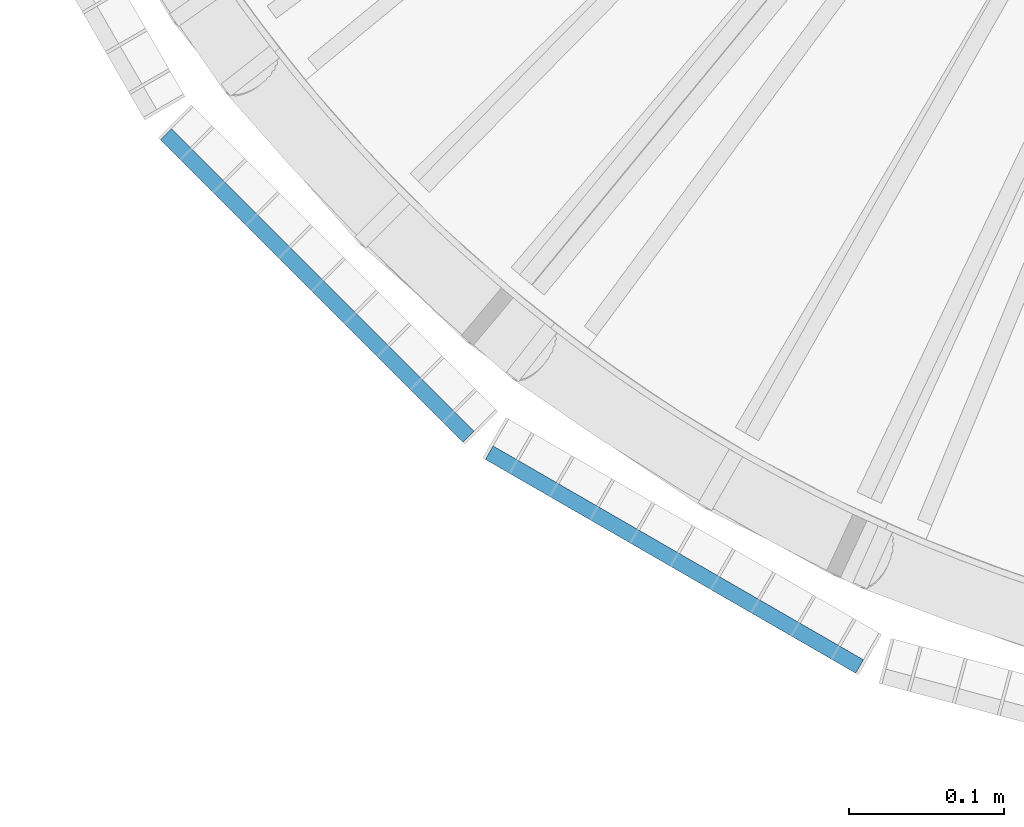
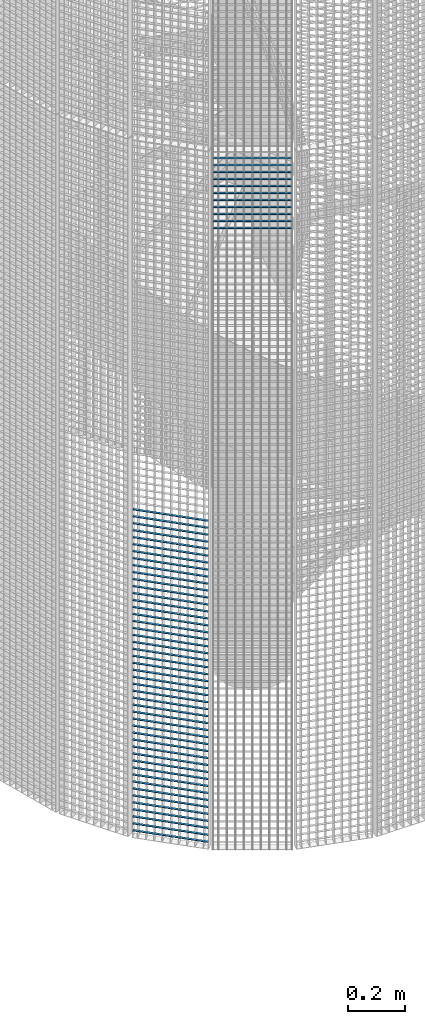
# One storey, part 383 of 1183: 58 beams, 2 elements without a shape of their own.
"""IFC2X3 building model written with IfcOpenShell, lengths in millimetres."""

from ifc_helpers import new_model, si_unit, frame, origin_with_axes, origin_2d_with_axis, place, context, subcontext, project, spatial, rectangle, extrude, material, type_object, element, aggregate, save


model = new_model("IFC2X3")

# Units and contexts
model_context = context("Model", 3, precision=1e-05, world=origin_with_axes())
body_context = subcontext(model_context, "Body", "Model", "MODEL_VIEW")
ifc_project = project(units=[si_unit("LENGTHUNIT", "METRE", prefix="MILLI"), si_unit("AREAUNIT", "SQUARE_METRE"), si_unit("VOLUMEUNIT", "CUBIC_METRE"), si_unit("MASSUNIT", "GRAM", prefix="KILO"), si_unit("TIMEUNIT", "SECOND"), si_unit("PLANEANGLEUNIT", "RADIAN"), si_unit("SOLIDANGLEUNIT", "STERADIAN"), si_unit("THERMODYNAMICTEMPERATUREUNIT", "DEGREE_CELSIUS"), si_unit("LUMINOUSINTENSITYUNIT", "LUMEN")], contexts=[model_context])

# Site, building, storey
site_placement = place(None, origin_with_axes())
site = spatial("IfcSite", under=ifc_project, at=site_placement, Name="Undefined", CompositionType="ELEMENT")
building_placement = place(site_placement, origin_with_axes())
building = spatial("IfcBuilding", under=site, at=building_placement, Name="Undefined", CompositionType="ELEMENT")
storey_placement = place(building_placement, origin_with_axes())
storey = spatial("IfcBuildingStorey", under=building, at=storey_placement, Name="Undefined", CompositionType="ELEMENT", Elevation=0.0)

# Assembly, beams
assembly_1_placement = place(storey_placement, origin_with_axes())
assembly_1 = element("IfcElementAssembly", 1, at=assembly_1_placement, inside=storey, Name="BORDURE", AssemblyPlace="NOTDEFINED", PredefinedType="NOTDEFINED")
ifc_material = material(Name="STEEL/S235JR")
beam_type = type_object("IfcBeamType", Name="PL2*10", PredefinedType="NOTDEFINED")
beam_1_placement = place(assembly_1_placement, frame((20910.2286510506, -884.927168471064, 1410.0), z_axis=(-0.70710678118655, -0.707106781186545, 0.0), x_axis=(-0.707106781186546, 0.707106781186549, 0.0)))
beam_1 = element("IfcBeam", 2, at=beam_1_placement, type_object=beam_type, material=ifc_material, Name="ENTRETOISE", context=body_context, shape_type="SweptSolid", body=[
    extrude(rectangle(XDim=2.0, YDim=10.0, at=origin_2d_with_axis()), frame((275.999999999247, 9.09494701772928e-13, 1.53210777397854e-14), z_axis=(-1.0, 0.0, 0.0), x_axis=(0.0, -1.0, 0.0)), (0.0, 0.0, 1.0), 276.0),
])
beam_2_placement = place(assembly_1_placement, frame((20910.2286510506, -884.927168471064, 1380.0), z_axis=(-0.70710678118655, -0.707106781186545, 0.0), x_axis=(-0.707106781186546, 0.707106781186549, 0.0)))
beam_2 = element("IfcBeam", 3, at=beam_2_placement, type_object=beam_type, material=ifc_material, Name="ENTRETOISE", context=body_context, shape_type="SweptSolid", body=[
    extrude(rectangle(XDim=2.0, YDim=10.0, at=origin_2d_with_axis()), frame((275.999999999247, 9.09494701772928e-13, 1.53210777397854e-14), z_axis=(-1.0, 0.0, 0.0), x_axis=(0.0, -1.0, 0.0)), (0.0, 0.0, 1.0), 276.0),
])
beam_3_placement = place(assembly_1_placement, frame((20910.2286510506, -884.927168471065, 1350.0), z_axis=(-0.70710678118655, -0.707106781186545, 0.0), x_axis=(-0.707106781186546, 0.707106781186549, 0.0)))
beam_3 = element("IfcBeam", 4, at=beam_3_placement, type_object=beam_type, material=ifc_material, Name="ENTRETOISE", context=body_context, shape_type="SweptSolid", body=[
    extrude(rectangle(XDim=2.0, YDim=10.0, at=origin_2d_with_axis()), frame((275.999999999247, 9.09494701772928e-13, 1.53210777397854e-14), z_axis=(-1.0, 0.0, 0.0), x_axis=(0.0, -1.0, 0.0)), (0.0, 0.0, 1.0), 276.0),
])
beam_4_placement = place(assembly_1_placement, frame((20910.2286510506, -884.927168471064, 1320.0), z_axis=(-0.70710678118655, -0.707106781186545, 0.0), x_axis=(-0.707106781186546, 0.707106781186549, 0.0)))
beam_4 = element("IfcBeam", 5, at=beam_4_placement, type_object=beam_type, material=ifc_material, Name="ENTRETOISE", context=body_context, shape_type="SweptSolid", body=[
    extrude(rectangle(XDim=2.0, YDim=10.0, at=origin_2d_with_axis()), frame((275.999999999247, 9.09494701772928e-13, 1.53210777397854e-14), z_axis=(-1.0, 0.0, 0.0), x_axis=(0.0, -1.0, 0.0)), (0.0, 0.0, 1.0), 276.0),
])
beam_5_placement = place(assembly_1_placement, frame((20910.2286510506, -884.927168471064, 1290.0), z_axis=(-0.70710678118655, -0.707106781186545, 0.0), x_axis=(-0.707106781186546, 0.707106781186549, 0.0)))
beam_5 = element("IfcBeam", 6, at=beam_5_placement, type_object=beam_type, material=ifc_material, Name="ENTRETOISE", context=body_context, shape_type="SweptSolid", body=[
    extrude(rectangle(XDim=2.0, YDim=10.0, at=origin_2d_with_axis()), frame((275.999999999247, 9.09494701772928e-13, 1.53210777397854e-14), z_axis=(-1.0, 0.0, 0.0), x_axis=(0.0, -1.0, 0.0)), (0.0, 0.0, 1.0), 276.0),
])
beam_6_placement = place(assembly_1_placement, frame((20910.2286510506, -884.927168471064, 1260.0), z_axis=(-0.70710678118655, -0.707106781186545, 0.0), x_axis=(-0.707106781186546, 0.707106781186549, 0.0)))
beam_6 = element("IfcBeam", 7, at=beam_6_placement, type_object=beam_type, material=ifc_material, Name="ENTRETOISE", context=body_context, shape_type="SweptSolid", body=[
    extrude(rectangle(XDim=2.0, YDim=10.0, at=origin_2d_with_axis()), frame((275.999999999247, 9.09494701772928e-13, 1.53210777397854e-14), z_axis=(-1.0, 0.0, 0.0), x_axis=(0.0, -1.0, 0.0)), (0.0, 0.0, 1.0), 276.0),
])
beam_7_placement = place(assembly_1_placement, frame((20910.2286510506, -884.927168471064, 1230.0), z_axis=(-0.70710678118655, -0.707106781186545, 0.0), x_axis=(-0.707106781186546, 0.707106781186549, 0.0)))
beam_7 = element("IfcBeam", 8, at=beam_7_placement, type_object=beam_type, material=ifc_material, Name="ENTRETOISE", context=body_context, shape_type="SweptSolid", body=[
    extrude(rectangle(XDim=2.0, YDim=10.0, at=origin_2d_with_axis()), frame((275.999999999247, 9.09494701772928e-13, 1.53210777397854e-14), z_axis=(-1.0, 0.0, 0.0), x_axis=(0.0, -1.0, 0.0)), (0.0, 0.0, 1.0), 276.0),
])
beam_8_placement = place(assembly_1_placement, frame((20910.2286510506, -884.927168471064, 1200.0), z_axis=(-0.70710678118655, -0.707106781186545, 0.0), x_axis=(-0.707106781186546, 0.707106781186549, 0.0)))
beam_8 = element("IfcBeam", 9, at=beam_8_placement, type_object=beam_type, material=ifc_material, Name="ENTRETOISE", context=body_context, shape_type="SweptSolid", body=[
    extrude(rectangle(XDim=2.0, YDim=10.0, at=origin_2d_with_axis()), frame((275.999999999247, 9.09494701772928e-13, 1.53210777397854e-14), z_axis=(-1.0, 0.0, 0.0), x_axis=(0.0, -1.0, 0.0)), (0.0, 0.0, 1.0), 276.0),
])
beam_9_placement = place(assembly_1_placement, frame((20910.2286510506, -884.927168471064, 1170.0), z_axis=(-0.70710678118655, -0.707106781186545, 0.0), x_axis=(-0.707106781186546, 0.707106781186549, 0.0)))
beam_9 = element("IfcBeam", 10, at=beam_9_placement, type_object=beam_type, material=ifc_material, Name="ENTRETOISE", context=body_context, shape_type="SweptSolid", body=[
    extrude(rectangle(XDim=2.0, YDim=10.0, at=origin_2d_with_axis()), frame((275.999999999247, 9.09494701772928e-13, 1.53210777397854e-14), z_axis=(-1.0, 0.0, 0.0), x_axis=(0.0, -1.0, 0.0)), (0.0, 0.0, 1.0), 276.0),
])
beam_10_placement = place(assembly_1_placement, frame((20910.2286510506, -884.927168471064, 1140.0), z_axis=(-0.70710678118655, -0.707106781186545, 0.0), x_axis=(-0.707106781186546, 0.707106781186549, 0.0)))
beam_10 = element("IfcBeam", 11, at=beam_10_placement, type_object=beam_type, material=ifc_material, Name="ENTRETOISE", context=body_context, shape_type="SweptSolid", body=[
    extrude(rectangle(XDim=2.0, YDim=10.0, at=origin_2d_with_axis()), frame((275.999999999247, 9.09494701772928e-13, 1.53210777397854e-14), z_axis=(-1.0, 0.0, 0.0), x_axis=(0.0, -1.0, 0.0)), (0.0, 0.0, 1.0), 276.0),
])
beam_11_placement = place(assembly_1_placement, frame((20910.2286510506, -884.927168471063, 719.999999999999), z_axis=(-0.70710678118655, -0.707106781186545, 0.0), x_axis=(-0.707106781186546, 0.707106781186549, 0.0)))
beam_11 = element("IfcBeam", 12, at=beam_11_placement, type_object=beam_type, material=ifc_material, Name="ENTRETOISE", context=body_context, shape_type="SweptSolid", body=[
    extrude(rectangle(XDim=2.0, YDim=10.0, at=origin_2d_with_axis()), frame((275.999999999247, 9.09494701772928e-13, 1.53210777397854e-14), z_axis=(-1.0, 0.0, 0.0), x_axis=(0.0, -1.0, 0.0)), (0.0, 0.0, 1.0), 276.0),
])
beam_12_placement = place(assembly_1_placement, frame((20910.2286510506, -884.927168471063, 689.999999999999), z_axis=(-0.70710678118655, -0.707106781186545, 0.0), x_axis=(-0.707106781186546, 0.707106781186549, 0.0)))
beam_12 = element("IfcBeam", 13, at=beam_12_placement, type_object=beam_type, material=ifc_material, Name="ENTRETOISE", context=body_context, shape_type="SweptSolid", body=[
    extrude(rectangle(XDim=2.0, YDim=10.0, at=origin_2d_with_axis()), frame((275.999999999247, 9.09494701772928e-13, 1.53210777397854e-14), z_axis=(-1.0, 0.0, 0.0), x_axis=(0.0, -1.0, 0.0)), (0.0, 0.0, 1.0), 276.0),
])
beam_13_placement = place(assembly_1_placement, frame((20910.2286510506, -884.927168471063, 749.999999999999), z_axis=(-0.70710678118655, -0.707106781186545, 0.0), x_axis=(-0.707106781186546, 0.707106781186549, 0.0)))
beam_13 = element("IfcBeam", 14, at=beam_13_placement, type_object=beam_type, material=ifc_material, Name="ENTRETOISE", context=body_context, shape_type="SweptSolid", body=[
    extrude(rectangle(XDim=2.0, YDim=10.0, at=origin_2d_with_axis()), frame((275.999999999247, 9.09494701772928e-13, 1.53210777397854e-14), z_axis=(-1.0, 0.0, 0.0), x_axis=(0.0, -1.0, 0.0)), (0.0, 0.0, 1.0), 276.0),
])
beam_14_placement = place(assembly_1_placement, frame((20910.2286510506, -884.927168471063, 659.999999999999), z_axis=(-0.70710678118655, -0.707106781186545, 0.0), x_axis=(-0.707106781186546, 0.707106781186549, 0.0)))
beam_14 = element("IfcBeam", 15, at=beam_14_placement, type_object=beam_type, material=ifc_material, Name="ENTRETOISE", context=body_context, shape_type="SweptSolid", body=[
    extrude(rectangle(XDim=2.0, YDim=10.0, at=origin_2d_with_axis()), frame((275.999999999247, 9.09494701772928e-13, 1.53210777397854e-14), z_axis=(-1.0, 0.0, 0.0), x_axis=(0.0, -1.0, 0.0)), (0.0, 0.0, 1.0), 276.0),
])
beam_15_placement = place(assembly_1_placement, frame((20910.2286510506, -884.927168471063, 629.999999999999), z_axis=(-0.70710678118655, -0.707106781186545, 0.0), x_axis=(-0.707106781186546, 0.707106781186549, 0.0)))
beam_15 = element("IfcBeam", 16, at=beam_15_placement, type_object=beam_type, material=ifc_material, Name="ENTRETOISE", context=body_context, shape_type="SweptSolid", body=[
    extrude(rectangle(XDim=2.0, YDim=10.0, at=origin_2d_with_axis()), frame((275.999999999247, 9.09494701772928e-13, 1.53210777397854e-14), z_axis=(-1.0, 0.0, 0.0), x_axis=(0.0, -1.0, 0.0)), (0.0, 0.0, 1.0), 276.0),
])
beam_16_placement = place(assembly_1_placement, frame((20910.2286510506, -884.927168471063, 779.999999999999), z_axis=(-0.70710678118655, -0.707106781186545, 0.0), x_axis=(-0.707106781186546, 0.707106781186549, 0.0)))
beam_16 = element("IfcBeam", 17, at=beam_16_placement, type_object=beam_type, material=ifc_material, Name="ENTRETOISE", context=body_context, shape_type="SweptSolid", body=[
    extrude(rectangle(XDim=2.0, YDim=10.0, at=origin_2d_with_axis()), frame((275.999999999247, 9.09494701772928e-13, 1.53210777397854e-14), z_axis=(-1.0, 0.0, 0.0), x_axis=(0.0, -1.0, 0.0)), (0.0, 0.0, 1.0), 276.0),
])
beam_17_placement = place(assembly_1_placement, frame((20910.2286510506, -884.927168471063, 599.999999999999), z_axis=(-0.70710678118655, -0.707106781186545, 0.0), x_axis=(-0.707106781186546, 0.707106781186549, 0.0)))
beam_17 = element("IfcBeam", 18, at=beam_17_placement, type_object=beam_type, material=ifc_material, Name="ENTRETOISE", context=body_context, shape_type="SweptSolid", body=[
    extrude(rectangle(XDim=2.0, YDim=10.0, at=origin_2d_with_axis()), frame((275.999999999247, 9.09494701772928e-13, 1.53210777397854e-14), z_axis=(-1.0, 0.0, 0.0), x_axis=(0.0, -1.0, 0.0)), (0.0, 0.0, 1.0), 276.0),
])
beam_18_placement = place(assembly_1_placement, frame((20910.2286510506, -884.927168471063, 809.999999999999), z_axis=(-0.70710678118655, -0.707106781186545, 0.0), x_axis=(-0.707106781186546, 0.707106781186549, 0.0)))
beam_18 = element("IfcBeam", 19, at=beam_18_placement, type_object=beam_type, material=ifc_material, Name="ENTRETOISE", context=body_context, shape_type="SweptSolid", body=[
    extrude(rectangle(XDim=2.0, YDim=10.0, at=origin_2d_with_axis()), frame((275.999999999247, 9.09494701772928e-13, 1.53210777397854e-14), z_axis=(-1.0, 0.0, 0.0), x_axis=(0.0, -1.0, 0.0)), (0.0, 0.0, 1.0), 276.0),
])
beam_19_placement = place(assembly_1_placement, frame((20910.2286510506, -884.927168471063, 569.999999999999), z_axis=(-0.70710678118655, -0.707106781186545, 0.0), x_axis=(-0.707106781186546, 0.707106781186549, 0.0)))
beam_19 = element("IfcBeam", 20, at=beam_19_placement, type_object=beam_type, material=ifc_material, Name="ENTRETOISE", context=body_context, shape_type="SweptSolid", body=[
    extrude(rectangle(XDim=2.0, YDim=10.0, at=origin_2d_with_axis()), frame((275.999999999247, 9.09494701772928e-13, 1.53210777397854e-14), z_axis=(-1.0, 0.0, 0.0), x_axis=(0.0, -1.0, 0.0)), (0.0, 0.0, 1.0), 276.0),
])
beam_20_placement = place(assembly_1_placement, frame((20910.2286510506, -884.927168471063, 539.999999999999), z_axis=(-0.70710678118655, -0.707106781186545, 0.0), x_axis=(-0.707106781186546, 0.707106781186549, 0.0)))
beam_20 = element("IfcBeam", 21, at=beam_20_placement, type_object=beam_type, material=ifc_material, Name="ENTRETOISE", context=body_context, shape_type="SweptSolid", body=[
    extrude(rectangle(XDim=2.0, YDim=10.0, at=origin_2d_with_axis()), frame((275.999999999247, 9.09494701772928e-13, 1.53210777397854e-14), z_axis=(-1.0, 0.0, 0.0), x_axis=(0.0, -1.0, 0.0)), (0.0, 0.0, 1.0), 276.0),
])
beam_21_placement = place(assembly_1_placement, frame((20910.2286510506, -884.927168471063, 839.999999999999), z_axis=(-0.70710678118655, -0.707106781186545, 0.0), x_axis=(-0.707106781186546, 0.707106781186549, 0.0)))
beam_21 = element("IfcBeam", 22, at=beam_21_placement, type_object=beam_type, material=ifc_material, Name="ENTRETOISE", context=body_context, shape_type="SweptSolid", body=[
    extrude(rectangle(XDim=2.0, YDim=10.0, at=origin_2d_with_axis()), frame((275.999999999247, 9.09494701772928e-13, 1.53210777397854e-14), z_axis=(-1.0, 0.0, 0.0), x_axis=(0.0, -1.0, 0.0)), (0.0, 0.0, 1.0), 276.0),
])
beam_22_placement = place(assembly_1_placement, frame((20910.2286510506, -884.927168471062, 509.999999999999), z_axis=(-0.70710678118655, -0.707106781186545, 0.0), x_axis=(-0.707106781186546, 0.707106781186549, 0.0)))
beam_22 = element("IfcBeam", 23, at=beam_22_placement, type_object=beam_type, material=ifc_material, Name="ENTRETOISE", context=body_context, shape_type="SweptSolid", body=[
    extrude(rectangle(XDim=2.0, YDim=10.0, at=origin_2d_with_axis()), frame((275.999999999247, 9.09494701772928e-13, 1.53210777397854e-14), z_axis=(-1.0, 0.0, 0.0), x_axis=(0.0, -1.0, 0.0)), (0.0, 0.0, 1.0), 276.0),
])
beam_23_placement = place(assembly_1_placement, frame((20910.2286510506, -884.927168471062, 479.999999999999), z_axis=(-0.70710678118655, -0.707106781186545, 0.0), x_axis=(-0.707106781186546, 0.707106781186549, 0.0)))
beam_23 = element("IfcBeam", 24, at=beam_23_placement, type_object=beam_type, material=ifc_material, Name="ENTRETOISE", context=body_context, shape_type="SweptSolid", body=[
    extrude(rectangle(XDim=2.0, YDim=10.0, at=origin_2d_with_axis()), frame((275.999999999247, 9.09494701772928e-13, 1.53210777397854e-14), z_axis=(-1.0, 0.0, 0.0), x_axis=(0.0, -1.0, 0.0)), (0.0, 0.0, 1.0), 276.0),
])
beam_24_placement = place(assembly_1_placement, frame((20910.2286510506, -884.927168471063, 869.999999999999), z_axis=(-0.70710678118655, -0.707106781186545, 0.0), x_axis=(-0.707106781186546, 0.707106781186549, 0.0)))
beam_24 = element("IfcBeam", 25, at=beam_24_placement, type_object=beam_type, material=ifc_material, Name="ENTRETOISE", context=body_context, shape_type="SweptSolid", body=[
    extrude(rectangle(XDim=2.0, YDim=10.0, at=origin_2d_with_axis()), frame((275.999999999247, 9.09494701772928e-13, 1.53210777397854e-14), z_axis=(-1.0, 0.0, 0.0), x_axis=(0.0, -1.0, 0.0)), (0.0, 0.0, 1.0), 276.0),
])
beam_25_placement = place(assembly_1_placement, frame((20910.2286510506, -884.927168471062, 449.999999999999), z_axis=(-0.70710678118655, -0.707106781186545, 0.0), x_axis=(-0.707106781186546, 0.707106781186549, 0.0)))
beam_25 = element("IfcBeam", 26, at=beam_25_placement, type_object=beam_type, material=ifc_material, Name="ENTRETOISE", context=body_context, shape_type="SweptSolid", body=[
    extrude(rectangle(XDim=2.0, YDim=10.0, at=origin_2d_with_axis()), frame((275.999999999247, 9.09494701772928e-13, 1.53210777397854e-14), z_axis=(-1.0, 0.0, 0.0), x_axis=(0.0, -1.0, 0.0)), (0.0, 0.0, 1.0), 276.0),
])
beam_26_placement = place(assembly_1_placement, frame((20910.2286510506, -884.927168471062, 419.999999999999), z_axis=(-0.70710678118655, -0.707106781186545, 0.0), x_axis=(-0.707106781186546, 0.707106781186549, 0.0)))
beam_26 = element("IfcBeam", 27, at=beam_26_placement, type_object=beam_type, material=ifc_material, Name="ENTRETOISE", context=body_context, shape_type="SweptSolid", body=[
    extrude(rectangle(XDim=2.0, YDim=10.0, at=origin_2d_with_axis()), frame((275.999999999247, 9.09494701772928e-13, 1.53210777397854e-14), z_axis=(-1.0, 0.0, 0.0), x_axis=(0.0, -1.0, 0.0)), (0.0, 0.0, 1.0), 276.0),
])
beam_27_placement = place(assembly_1_placement, frame((20910.2286510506, -884.927168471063, 899.999999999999), z_axis=(-0.70710678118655, -0.707106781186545, 0.0), x_axis=(-0.707106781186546, 0.707106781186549, 0.0)))
beam_27 = element("IfcBeam", 28, at=beam_27_placement, type_object=beam_type, material=ifc_material, Name="ENTRETOISE", context=body_context, shape_type="SweptSolid", body=[
    extrude(rectangle(XDim=2.0, YDim=10.0, at=origin_2d_with_axis()), frame((275.999999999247, 9.09494701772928e-13, 1.53210777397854e-14), z_axis=(-1.0, 0.0, 0.0), x_axis=(0.0, -1.0, 0.0)), (0.0, 0.0, 1.0), 276.0),
])
beam_28_placement = place(assembly_1_placement, frame((20910.2286510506, -884.927168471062, 389.999999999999), z_axis=(-0.70710678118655, -0.707106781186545, 0.0), x_axis=(-0.707106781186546, 0.707106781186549, 0.0)))
beam_28 = element("IfcBeam", 29, at=beam_28_placement, type_object=beam_type, material=ifc_material, Name="ENTRETOISE", context=body_context, shape_type="SweptSolid", body=[
    extrude(rectangle(XDim=2.0, YDim=10.0, at=origin_2d_with_axis()), frame((275.999999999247, 9.09494701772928e-13, 1.53210777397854e-14), z_axis=(-1.0, 0.0, 0.0), x_axis=(0.0, -1.0, 0.0)), (0.0, 0.0, 1.0), 276.0),
])
beam_29_placement = place(assembly_1_placement, frame((20910.2286510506, -884.927168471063, 929.999999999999), z_axis=(-0.70710678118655, -0.707106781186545, 0.0), x_axis=(-0.707106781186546, 0.707106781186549, 0.0)))
beam_29 = element("IfcBeam", 30, at=beam_29_placement, type_object=beam_type, material=ifc_material, Name="ENTRETOISE", context=body_context, shape_type="SweptSolid", body=[
    extrude(rectangle(XDim=2.0, YDim=10.0, at=origin_2d_with_axis()), frame((275.999999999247, 9.09494701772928e-13, 1.53210777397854e-14), z_axis=(-1.0, 0.0, 0.0), x_axis=(0.0, -1.0, 0.0)), (0.0, 0.0, 1.0), 276.0),
])
beam_30_placement = place(assembly_1_placement, frame((20910.2286510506, -884.927168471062, 359.999999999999), z_axis=(-0.70710678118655, -0.707106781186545, 0.0), x_axis=(-0.707106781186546, 0.707106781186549, 0.0)))
beam_30 = element("IfcBeam", 31, at=beam_30_placement, type_object=beam_type, material=ifc_material, Name="ENTRETOISE", context=body_context, shape_type="SweptSolid", body=[
    extrude(rectangle(XDim=2.0, YDim=10.0, at=origin_2d_with_axis()), frame((275.999999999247, 9.09494701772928e-13, 1.53210777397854e-14), z_axis=(-1.0, 0.0, 0.0), x_axis=(0.0, -1.0, 0.0)), (0.0, 0.0, 1.0), 276.0),
])
beam_31_placement = place(assembly_1_placement, frame((20910.2286510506, -884.927168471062, 329.999999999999), z_axis=(-0.70710678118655, -0.707106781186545, 0.0), x_axis=(-0.707106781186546, 0.707106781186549, 0.0)))
beam_31 = element("IfcBeam", 32, at=beam_31_placement, type_object=beam_type, material=ifc_material, Name="ENTRETOISE", context=body_context, shape_type="SweptSolid", body=[
    extrude(rectangle(XDim=2.0, YDim=10.0, at=origin_2d_with_axis()), frame((275.999999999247, 9.09494701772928e-13, 1.53210777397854e-14), z_axis=(-1.0, 0.0, 0.0), x_axis=(0.0, -1.0, 0.0)), (0.0, 0.0, 1.0), 276.0),
])
beam_32_placement = place(assembly_1_placement, frame((20910.2286510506, -884.927168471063, 959.999999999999), z_axis=(-0.70710678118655, -0.707106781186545, 0.0), x_axis=(-0.707106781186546, 0.707106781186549, 0.0)))
beam_32 = element("IfcBeam", 33, at=beam_32_placement, type_object=beam_type, material=ifc_material, Name="ENTRETOISE", context=body_context, shape_type="SweptSolid", body=[
    extrude(rectangle(XDim=2.0, YDim=10.0, at=origin_2d_with_axis()), frame((275.999999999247, 9.09494701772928e-13, 1.53210777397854e-14), z_axis=(-1.0, 0.0, 0.0), x_axis=(0.0, -1.0, 0.0)), (0.0, 0.0, 1.0), 276.0),
])
beam_33_placement = place(assembly_1_placement, frame((20910.2286510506, -884.927168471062, 299.999999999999), z_axis=(-0.70710678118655, -0.707106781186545, 0.0), x_axis=(-0.707106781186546, 0.707106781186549, 0.0)))
beam_33 = element("IfcBeam", 34, at=beam_33_placement, type_object=beam_type, material=ifc_material, Name="ENTRETOISE", context=body_context, shape_type="SweptSolid", body=[
    extrude(rectangle(XDim=2.0, YDim=10.0, at=origin_2d_with_axis()), frame((275.999999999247, 9.09494701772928e-13, 1.53210777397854e-14), z_axis=(-1.0, 0.0, 0.0), x_axis=(0.0, -1.0, 0.0)), (0.0, 0.0, 1.0), 276.0),
])
beam_34_placement = place(assembly_1_placement, frame((20910.2286510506, -884.927168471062, 269.999999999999), z_axis=(-0.70710678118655, -0.707106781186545, 0.0), x_axis=(-0.707106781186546, 0.707106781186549, 0.0)))
beam_34 = element("IfcBeam", 35, at=beam_34_placement, type_object=beam_type, material=ifc_material, Name="ENTRETOISE", context=body_context, shape_type="SweptSolid", body=[
    extrude(rectangle(XDim=2.0, YDim=10.0, at=origin_2d_with_axis()), frame((275.999999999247, 9.09494701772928e-13, 1.53210777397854e-14), z_axis=(-1.0, 0.0, 0.0), x_axis=(0.0, -1.0, 0.0)), (0.0, 0.0, 1.0), 276.0),
])
beam_35_placement = place(assembly_1_placement, frame((20910.2286510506, -884.927168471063, 989.999999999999), z_axis=(-0.70710678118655, -0.707106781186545, 0.0), x_axis=(-0.707106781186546, 0.707106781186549, 0.0)))
beam_35 = element("IfcBeam", 36, at=beam_35_placement, type_object=beam_type, material=ifc_material, Name="ENTRETOISE", context=body_context, shape_type="SweptSolid", body=[
    extrude(rectangle(XDim=2.0, YDim=10.0, at=origin_2d_with_axis()), frame((275.999999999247, 9.09494701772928e-13, 1.53210777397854e-14), z_axis=(-1.0, 0.0, 0.0), x_axis=(0.0, -1.0, 0.0)), (0.0, 0.0, 1.0), 276.0),
])
beam_36_placement = place(assembly_1_placement, frame((20910.2286510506, -884.927168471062, 239.999999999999), z_axis=(-0.70710678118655, -0.707106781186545, 0.0), x_axis=(-0.707106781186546, 0.707106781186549, 0.0)))
beam_36 = element("IfcBeam", 37, at=beam_36_placement, type_object=beam_type, material=ifc_material, Name="ENTRETOISE", context=body_context, shape_type="SweptSolid", body=[
    extrude(rectangle(XDim=2.0, YDim=10.0, at=origin_2d_with_axis()), frame((275.999999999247, 9.09494701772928e-13, 1.53210777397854e-14), z_axis=(-1.0, 0.0, 0.0), x_axis=(0.0, -1.0, 0.0)), (0.0, 0.0, 1.0), 276.0),
])
beam_37_placement = place(assembly_1_placement, frame((20910.2286510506, -884.927168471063, 1020.0), z_axis=(-0.70710678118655, -0.707106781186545, 0.0), x_axis=(-0.707106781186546, 0.707106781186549, 0.0)))
beam_37 = element("IfcBeam", 38, at=beam_37_placement, type_object=beam_type, material=ifc_material, Name="ENTRETOISE", context=body_context, shape_type="SweptSolid", body=[
    extrude(rectangle(XDim=2.0, YDim=10.0, at=origin_2d_with_axis()), frame((275.999999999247, 9.09494701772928e-13, 1.53210777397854e-14), z_axis=(-1.0, 0.0, 0.0), x_axis=(0.0, -1.0, 0.0)), (0.0, 0.0, 1.0), 276.0),
])
beam_38_placement = place(assembly_1_placement, frame((20910.2286510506, -884.927168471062, 209.999999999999), z_axis=(-0.70710678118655, -0.707106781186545, 0.0), x_axis=(-0.707106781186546, 0.707106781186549, 0.0)))
beam_38 = element("IfcBeam", 39, at=beam_38_placement, type_object=beam_type, material=ifc_material, Name="ENTRETOISE", context=body_context, shape_type="SweptSolid", body=[
    extrude(rectangle(XDim=2.0, YDim=10.0, at=origin_2d_with_axis()), frame((275.999999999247, 9.09494701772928e-13, 1.53210777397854e-14), z_axis=(-1.0, 0.0, 0.0), x_axis=(0.0, -1.0, 0.0)), (0.0, 0.0, 1.0), 276.0),
])
beam_39_placement = place(assembly_1_placement, frame((20910.2286510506, -884.927168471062, 179.999999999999), z_axis=(-0.70710678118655, -0.707106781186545, 0.0), x_axis=(-0.707106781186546, 0.707106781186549, 0.0)))
beam_39 = element("IfcBeam", 40, at=beam_39_placement, type_object=beam_type, material=ifc_material, Name="ENTRETOISE", context=body_context, shape_type="SweptSolid", body=[
    extrude(rectangle(XDim=2.0, YDim=10.0, at=origin_2d_with_axis()), frame((275.999999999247, 9.09494701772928e-13, 1.53210777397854e-14), z_axis=(-1.0, 0.0, 0.0), x_axis=(0.0, -1.0, 0.0)), (0.0, 0.0, 1.0), 276.0),
])
beam_40_placement = place(assembly_1_placement, frame((20910.2286510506, -884.927168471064, 1050.0), z_axis=(-0.70710678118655, -0.707106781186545, 0.0), x_axis=(-0.707106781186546, 0.707106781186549, 0.0)))
beam_40 = element("IfcBeam", 41, at=beam_40_placement, type_object=beam_type, material=ifc_material, Name="ENTRETOISE", context=body_context, shape_type="SweptSolid", body=[
    extrude(rectangle(XDim=2.0, YDim=10.0, at=origin_2d_with_axis()), frame((275.999999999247, 9.09494701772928e-13, 1.53210777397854e-14), z_axis=(-1.0, 0.0, 0.0), x_axis=(0.0, -1.0, 0.0)), (0.0, 0.0, 1.0), 276.0),
])
beam_41_placement = place(assembly_1_placement, frame((20910.2286510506, -884.927168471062, 149.999999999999), z_axis=(-0.70710678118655, -0.707106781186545, 0.0), x_axis=(-0.707106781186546, 0.707106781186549, 0.0)))
beam_41 = element("IfcBeam", 42, at=beam_41_placement, type_object=beam_type, material=ifc_material, Name="ENTRETOISE", context=body_context, shape_type="SweptSolid", body=[
    extrude(rectangle(XDim=2.0, YDim=10.0, at=origin_2d_with_axis()), frame((275.999999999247, 9.09494701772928e-13, 1.53210777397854e-14), z_axis=(-1.0, 0.0, 0.0), x_axis=(0.0, -1.0, 0.0)), (0.0, 0.0, 1.0), 276.0),
])
beam_42_placement = place(assembly_1_placement, frame((20910.2286510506, -884.927168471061, 119.999999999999), z_axis=(-0.70710678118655, -0.707106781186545, 0.0), x_axis=(-0.707106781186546, 0.707106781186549, 0.0)))
beam_42 = element("IfcBeam", 43, at=beam_42_placement, type_object=beam_type, material=ifc_material, Name="ENTRETOISE", context=body_context, shape_type="SweptSolid", body=[
    extrude(rectangle(XDim=2.0, YDim=10.0, at=origin_2d_with_axis()), frame((275.999999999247, 9.09494701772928e-13, 1.53210777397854e-14), z_axis=(-1.0, 0.0, 0.0), x_axis=(0.0, -1.0, 0.0)), (0.0, 0.0, 1.0), 276.0),
])
beam_43_placement = place(assembly_1_placement, frame((20910.2286510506, -884.927168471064, 1080.0), z_axis=(-0.70710678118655, -0.707106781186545, 0.0), x_axis=(-0.707106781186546, 0.707106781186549, 0.0)))
beam_43 = element("IfcBeam", 44, at=beam_43_placement, type_object=beam_type, material=ifc_material, Name="ENTRETOISE", context=body_context, shape_type="SweptSolid", body=[
    extrude(rectangle(XDim=2.0, YDim=10.0, at=origin_2d_with_axis()), frame((275.999999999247, 9.09494701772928e-13, 1.53210777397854e-14), z_axis=(-1.0, 0.0, 0.0), x_axis=(0.0, -1.0, 0.0)), (0.0, 0.0, 1.0), 276.0),
])
beam_44_placement = place(assembly_1_placement, frame((20910.2286510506, -884.927168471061, 89.9999999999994), z_axis=(-0.70710678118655, -0.707106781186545, 0.0), x_axis=(-0.707106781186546, 0.707106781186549, 0.0)))
beam_44 = element("IfcBeam", 45, at=beam_44_placement, type_object=beam_type, material=ifc_material, Name="ENTRETOISE", context=body_context, shape_type="SweptSolid", body=[
    extrude(rectangle(XDim=2.0, YDim=10.0, at=origin_2d_with_axis()), frame((275.999999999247, 9.09494701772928e-13, 1.53210777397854e-14), z_axis=(-1.0, 0.0, 0.0), x_axis=(0.0, -1.0, 0.0)), (0.0, 0.0, 1.0), 276.0),
])
beam_45_placement = place(assembly_1_placement, frame((20910.2286510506, -884.927168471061, 59.9999999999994), z_axis=(-0.70710678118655, -0.707106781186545, 0.0), x_axis=(-0.707106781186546, 0.707106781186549, 0.0)))
beam_45 = element("IfcBeam", 46, at=beam_45_placement, type_object=beam_type, material=ifc_material, Name="ENTRETOISE", context=body_context, shape_type="SweptSolid", body=[
    extrude(rectangle(XDim=2.0, YDim=10.0, at=origin_2d_with_axis()), frame((275.999999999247, 9.09494701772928e-13, 1.53210777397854e-14), z_axis=(-1.0, 0.0, 0.0), x_axis=(0.0, -1.0, 0.0)), (0.0, 0.0, 1.0), 276.0),
])
beam_46_placement = place(assembly_1_placement, frame((20910.2286510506, -884.927168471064, 1110.0), z_axis=(-0.70710678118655, -0.707106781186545, 0.0), x_axis=(-0.707106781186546, 0.707106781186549, 0.0)))
beam_46 = element("IfcBeam", 47, at=beam_46_placement, type_object=beam_type, material=ifc_material, Name="ENTRETOISE", context=body_context, shape_type="SweptSolid", body=[
    extrude(rectangle(XDim=2.0, YDim=10.0, at=origin_2d_with_axis()), frame((275.999999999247, 9.09494701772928e-13, 1.53210777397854e-14), z_axis=(-1.0, 0.0, 0.0), x_axis=(0.0, -1.0, 0.0)), (0.0, 0.0, 1.0), 276.0),
])
beam_47_placement = place(assembly_1_placement, frame((20910.2286510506, -884.92716847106, 29.9999999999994), z_axis=(-0.70710678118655, -0.707106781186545, 0.0), x_axis=(-0.707106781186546, 0.707106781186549, 0.0)))
beam_47 = element("IfcBeam", 48, at=beam_47_placement, type_object=beam_type, material=ifc_material, Name="ENTRETOISE", context=body_context, shape_type="SweptSolid", body=[
    extrude(rectangle(XDim=2.0, YDim=10.0, at=origin_2d_with_axis()), frame((275.999999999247, 9.09494701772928e-13, 1.53210777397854e-14), z_axis=(-1.0, 0.0, 0.0), x_axis=(0.0, -1.0, 0.0)), (0.0, 0.0, 1.0), 276.0),
])
aggregate(assembly_1, [beam_1, beam_2, beam_3, beam_4, beam_5, beam_6, beam_7, beam_8, beam_9, beam_10, beam_11, beam_12, beam_13, beam_14, beam_15, beam_16, beam_17, beam_18, beam_19, beam_20, beam_21, beam_22, beam_23, beam_24, beam_25, beam_26, beam_27, beam_28, beam_29, beam_30, beam_31, beam_32, beam_33, beam_34, beam_35, beam_36, beam_37, beam_38, beam_39, beam_40, beam_41, beam_42, beam_43, beam_44, beam_45, beam_46, beam_47])

assembly_2_placement = place(storey_placement, origin_with_axes())
assembly_2 = element("IfcElementAssembly", 49, at=assembly_2_placement, inside=storey, Name="BORDURE", AssemblyPlace="NOTDEFINED", PredefinedType="NOTDEFINED")
beam_48_placement = place(assembly_2_placement, frame((21162.7680445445, -1033.29996828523, 2970.0), z_axis=(-0.49999999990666, -0.866025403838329, 0.0), x_axis=(-0.866025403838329, 0.499999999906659, 0.0)))
beam_48 = element("IfcBeam", 50, at=beam_48_placement, type_object=beam_type, material=ifc_material, Name="ENTRETOISE", context=body_context, shape_type="SweptSolid", body=[
    extrude(rectangle(XDim=2.0, YDim=10.0, at=origin_2d_with_axis()), frame((275.999999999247, 9.09494701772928e-13, 1.53210777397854e-14), z_axis=(-1.0, 0.0, 0.0), x_axis=(0.0, -1.0, 0.0)), (0.0, 0.0, 1.0), 276.0),
])
beam_49_placement = place(assembly_2_placement, frame((21162.7680445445, -1033.29996828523, 2940.0), z_axis=(-0.49999999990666, -0.866025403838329, 0.0), x_axis=(-0.866025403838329, 0.499999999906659, 0.0)))
beam_49 = element("IfcBeam", 51, at=beam_49_placement, type_object=beam_type, material=ifc_material, Name="ENTRETOISE", context=body_context, shape_type="SweptSolid", body=[
    extrude(rectangle(XDim=2.0, YDim=10.0, at=origin_2d_with_axis()), frame((275.999999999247, 9.09494701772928e-13, 1.53210777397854e-14), z_axis=(-1.0, 0.0, 0.0), x_axis=(0.0, -1.0, 0.0)), (0.0, 0.0, 1.0), 276.0),
])
beam_50_placement = place(assembly_2_placement, frame((21162.7680445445, -1033.29996828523, 2910.0), z_axis=(-0.49999999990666, -0.866025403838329, 0.0), x_axis=(-0.866025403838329, 0.499999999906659, 0.0)))
beam_50 = element("IfcBeam", 52, at=beam_50_placement, type_object=beam_type, material=ifc_material, Name="ENTRETOISE", context=body_context, shape_type="SweptSolid", body=[
    extrude(rectangle(XDim=2.0, YDim=10.0, at=origin_2d_with_axis()), frame((275.999999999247, 9.09494701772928e-13, 1.53210777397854e-14), z_axis=(-1.0, 0.0, 0.0), x_axis=(0.0, -1.0, 0.0)), (0.0, 0.0, 1.0), 276.0),
])
beam_51_placement = place(assembly_2_placement, frame((21162.7680445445, -1033.29996828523, 2880.0), z_axis=(-0.49999999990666, -0.866025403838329, 0.0), x_axis=(-0.866025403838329, 0.499999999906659, 0.0)))
beam_51 = element("IfcBeam", 53, at=beam_51_placement, type_object=beam_type, material=ifc_material, Name="ENTRETOISE", context=body_context, shape_type="SweptSolid", body=[
    extrude(rectangle(XDim=2.0, YDim=10.0, at=origin_2d_with_axis()), frame((275.999999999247, 9.09494701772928e-13, 1.53210777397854e-14), z_axis=(-1.0, 0.0, 0.0), x_axis=(0.0, -1.0, 0.0)), (0.0, 0.0, 1.0), 276.0),
])
beam_52_placement = place(assembly_2_placement, frame((21162.7680445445, -1033.29996828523, 2850.0), z_axis=(-0.49999999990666, -0.866025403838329, 0.0), x_axis=(-0.866025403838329, 0.499999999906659, 0.0)))
beam_52 = element("IfcBeam", 54, at=beam_52_placement, type_object=beam_type, material=ifc_material, Name="ENTRETOISE", context=body_context, shape_type="SweptSolid", body=[
    extrude(rectangle(XDim=2.0, YDim=10.0, at=origin_2d_with_axis()), frame((275.999999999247, 9.09494701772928e-13, 1.53210777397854e-14), z_axis=(-1.0, 0.0, 0.0), x_axis=(0.0, -1.0, 0.0)), (0.0, 0.0, 1.0), 276.0),
])
beam_53_placement = place(assembly_2_placement, frame((21162.7680445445, -1033.29996828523, 2820.0), z_axis=(-0.49999999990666, -0.866025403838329, 0.0), x_axis=(-0.866025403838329, 0.499999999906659, 0.0)))
beam_53 = element("IfcBeam", 55, at=beam_53_placement, type_object=beam_type, material=ifc_material, Name="ENTRETOISE", context=body_context, shape_type="SweptSolid", body=[
    extrude(rectangle(XDim=2.0, YDim=10.0, at=origin_2d_with_axis()), frame((275.999999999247, 9.09494701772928e-13, 1.53210777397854e-14), z_axis=(-1.0, 0.0, 0.0), x_axis=(0.0, -1.0, 0.0)), (0.0, 0.0, 1.0), 276.0),
])
beam_54_placement = place(assembly_2_placement, frame((21162.7680445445, -1033.29996828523, 2790.0), z_axis=(-0.49999999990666, -0.866025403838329, 0.0), x_axis=(-0.866025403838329, 0.499999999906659, 0.0)))
beam_54 = element("IfcBeam", 56, at=beam_54_placement, type_object=beam_type, material=ifc_material, Name="ENTRETOISE", context=body_context, shape_type="SweptSolid", body=[
    extrude(rectangle(XDim=2.0, YDim=10.0, at=origin_2d_with_axis()), frame((275.999999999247, 9.09494701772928e-13, 1.53210777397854e-14), z_axis=(-1.0, 0.0, 0.0), x_axis=(0.0, -1.0, 0.0)), (0.0, 0.0, 1.0), 276.0),
])
beam_55_placement = place(assembly_2_placement, frame((21162.7680445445, -1033.29996828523, 2760.0), z_axis=(-0.49999999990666, -0.866025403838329, 0.0), x_axis=(-0.866025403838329, 0.499999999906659, 0.0)))
beam_55 = element("IfcBeam", 57, at=beam_55_placement, type_object=beam_type, material=ifc_material, Name="ENTRETOISE", context=body_context, shape_type="SweptSolid", body=[
    extrude(rectangle(XDim=2.0, YDim=10.0, at=origin_2d_with_axis()), frame((275.999999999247, 9.09494701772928e-13, 1.53210777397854e-14), z_axis=(-1.0, 0.0, 0.0), x_axis=(0.0, -1.0, 0.0)), (0.0, 0.0, 1.0), 276.0),
])
beam_56_placement = place(assembly_2_placement, frame((21162.7680445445, -1033.29996828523, 2730.0), z_axis=(-0.49999999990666, -0.866025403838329, 0.0), x_axis=(-0.866025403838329, 0.499999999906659, 0.0)))
beam_56 = element("IfcBeam", 58, at=beam_56_placement, type_object=beam_type, material=ifc_material, Name="ENTRETOISE", context=body_context, shape_type="SweptSolid", body=[
    extrude(rectangle(XDim=2.0, YDim=10.0, at=origin_2d_with_axis()), frame((275.999999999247, 9.09494701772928e-13, 1.53210777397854e-14), z_axis=(-1.0, 0.0, 0.0), x_axis=(0.0, -1.0, 0.0)), (0.0, 0.0, 1.0), 276.0),
])
beam_57_placement = place(assembly_2_placement, frame((21162.7680445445, -1033.29996828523, 2700.0), z_axis=(-0.49999999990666, -0.866025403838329, 0.0), x_axis=(-0.866025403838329, 0.499999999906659, 0.0)))
beam_57 = element("IfcBeam", 59, at=beam_57_placement, type_object=beam_type, material=ifc_material, Name="ENTRETOISE", context=body_context, shape_type="SweptSolid", body=[
    extrude(rectangle(XDim=2.0, YDim=10.0, at=origin_2d_with_axis()), frame((275.999999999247, 9.09494701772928e-13, 1.53210777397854e-14), z_axis=(-1.0, 0.0, 0.0), x_axis=(0.0, -1.0, 0.0)), (0.0, 0.0, 1.0), 276.0),
])
beam_58_placement = place(assembly_2_placement, frame((21162.7680445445, -1033.29996828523, 2670.0), z_axis=(-0.49999999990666, -0.866025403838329, 0.0), x_axis=(-0.866025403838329, 0.499999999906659, 0.0)))
beam_58 = element("IfcBeam", 60, at=beam_58_placement, type_object=beam_type, material=ifc_material, Name="ENTRETOISE", context=body_context, shape_type="SweptSolid", body=[
    extrude(rectangle(XDim=2.0, YDim=10.0, at=origin_2d_with_axis()), frame((275.999999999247, 9.09494701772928e-13, 1.53210777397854e-14), z_axis=(-1.0, 0.0, 0.0), x_axis=(0.0, -1.0, 0.0)), (0.0, 0.0, 1.0), 276.0),
])
aggregate(assembly_2, [beam_48, beam_49, beam_50, beam_51, beam_52, beam_53, beam_54, beam_55, beam_56, beam_57, beam_58])

save(model, "model.ifc")
